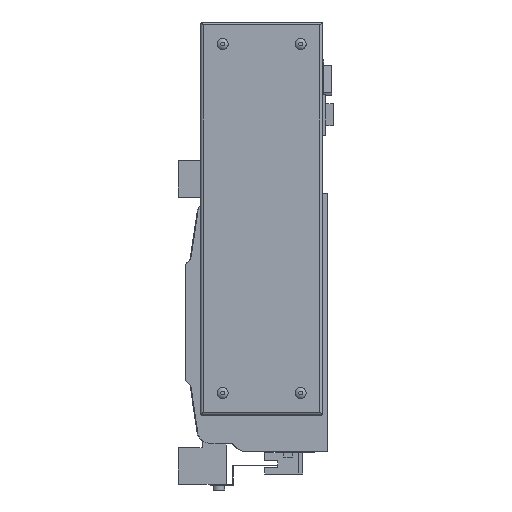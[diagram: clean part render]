
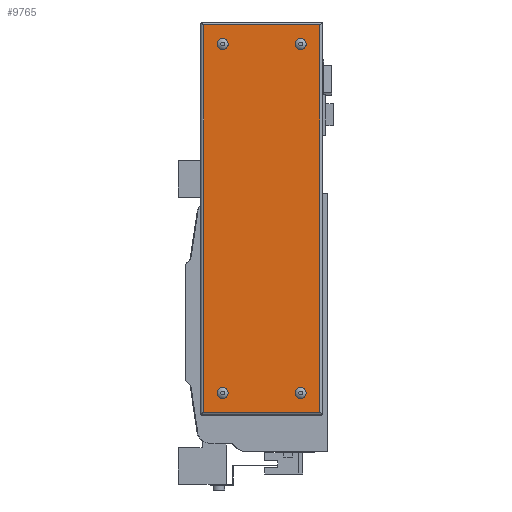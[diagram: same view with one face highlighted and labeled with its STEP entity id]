
A CAD part, left-side view. The second image highlights one B-rep face of the part: STEP entity #9765.
In plain terms, the highlighted planar face has unit normal (-1, 0, 0).
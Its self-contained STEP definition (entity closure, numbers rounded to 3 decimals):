
#281=PLANE('',#10512);
#993=LINE('',#15023,#2083);
#994=LINE('',#15026,#2084);
#995=LINE('',#15028,#2085);
#996=LINE('',#15030,#2086);
#2083=VECTOR('',#12178,1000.);
#2084=VECTOR('',#12179,1000.);
#2085=VECTOR('',#12180,1000.);
#2086=VECTOR('',#12181,1000.);
#3844=ORIENTED_EDGE('',*,*,#6023,.F.);
#3845=ORIENTED_EDGE('',*,*,#6024,.F.);
#3846=ORIENTED_EDGE('',*,*,#6025,.F.);
#3847=ORIENTED_EDGE('',*,*,#6026,.F.);
#3848=ORIENTED_EDGE('',*,*,#6027,.F.);
#3849=ORIENTED_EDGE('',*,*,#6028,.F.);
#3850=ORIENTED_EDGE('',*,*,#6029,.T.);
#3851=ORIENTED_EDGE('',*,*,#6030,.T.);
#6023=EDGE_CURVE('',#7219,#7219,#7861,.F.);
#6024=EDGE_CURVE('',#7220,#7220,#7862,.F.);
#6025=EDGE_CURVE('',#7221,#7221,#7863,.F.);
#6026=EDGE_CURVE('',#7222,#7222,#7864,.F.);
#6027=EDGE_CURVE('',#7223,#7224,#993,.T.);
#6028=EDGE_CURVE('',#7225,#7223,#994,.T.);
#6029=EDGE_CURVE('',#7225,#7226,#995,.T.);
#6030=EDGE_CURVE('',#7226,#7224,#996,.T.);
#7219=VERTEX_POINT('',#15016);
#7220=VERTEX_POINT('',#15018);
#7221=VERTEX_POINT('',#15020);
#7222=VERTEX_POINT('',#15022);
#7223=VERTEX_POINT('',#15024);
#7224=VERTEX_POINT('',#15025);
#7225=VERTEX_POINT('',#15027);
#7226=VERTEX_POINT('',#15029);
#7861=CIRCLE('',#10513,3.7);
#7862=CIRCLE('',#10514,3.7);
#7863=CIRCLE('',#10515,3.7);
#7864=CIRCLE('',#10516,3.7);
#8297=EDGE_LOOP('',(#3844));
#8298=EDGE_LOOP('',(#3845));
#8299=EDGE_LOOP('',(#3846));
#8300=EDGE_LOOP('',(#3847));
#8301=EDGE_LOOP('',(#3848,#3849,#3850,#3851));
#9002=FACE_BOUND('',#8297,.T.);
#9003=FACE_BOUND('',#8298,.T.);
#9004=FACE_BOUND('',#8299,.T.);
#9005=FACE_BOUND('',#8300,.T.);
#9006=FACE_BOUND('',#8301,.T.);
#9765=ADVANCED_FACE('',(#9002,#9003,#9004,#9005,#9006),#281,.F.);
#10512=AXIS2_PLACEMENT_3D('',#15014,#12168,#12169);
#10513=AXIS2_PLACEMENT_3D('',#15015,#12170,#12171);
#10514=AXIS2_PLACEMENT_3D('',#15017,#12172,#12173);
#10515=AXIS2_PLACEMENT_3D('',#15019,#12174,#12175);
#10516=AXIS2_PLACEMENT_3D('',#15021,#12176,#12177);
#12168=DIRECTION('',(1.,0.,0.));
#12169=DIRECTION('',(0.,0.,-1.));
#12170=DIRECTION('',(1.,0.,0.));
#12171=DIRECTION('',(0.,0.,-1.));
#12172=DIRECTION('',(1.,0.,0.));
#12173=DIRECTION('',(0.,0.,-1.));
#12174=DIRECTION('',(1.,0.,0.));
#12175=DIRECTION('',(0.,0.,-1.));
#12176=DIRECTION('',(1.,0.,0.));
#12177=DIRECTION('',(0.,0.,-1.));
#12178=DIRECTION('',(0.,0.,-1.));
#12179=DIRECTION('',(0.,-1.,0.));
#12180=DIRECTION('',(0.,0.,-1.));
#12181=DIRECTION('',(0.,-1.,0.));
#15014=CARTESIAN_POINT('',(-66.,0.,0.));
#15015=CARTESIAN_POINT('',(-66.,18.5,189.));
#15016=CARTESIAN_POINT('',(-66.,18.5,185.3));
#15017=CARTESIAN_POINT('',(-66.,18.5,-48.));
#15018=CARTESIAN_POINT('',(-66.,18.5,-51.7));
#15019=CARTESIAN_POINT('',(-66.,71.5,189.));
#15020=CARTESIAN_POINT('',(-66.,71.5,185.3));
#15021=CARTESIAN_POINT('',(-66.,71.5,-48.));
#15022=CARTESIAN_POINT('',(-66.,71.5,-51.7));
#15023=CARTESIAN_POINT('',(-66.,5.5,267.));
#15024=CARTESIAN_POINT('',(-66.,5.5,202.));
#15025=CARTESIAN_POINT('',(-66.,5.5,-61.));
#15026=CARTESIAN_POINT('',(-66.,267.,202.));
#15027=CARTESIAN_POINT('',(-66.,84.5,202.));
#15028=CARTESIAN_POINT('',(-66.,84.5,267.));
#15029=CARTESIAN_POINT('',(-66.,84.5,-61.));
#15030=CARTESIAN_POINT('',(-66.,267.,-61.));
